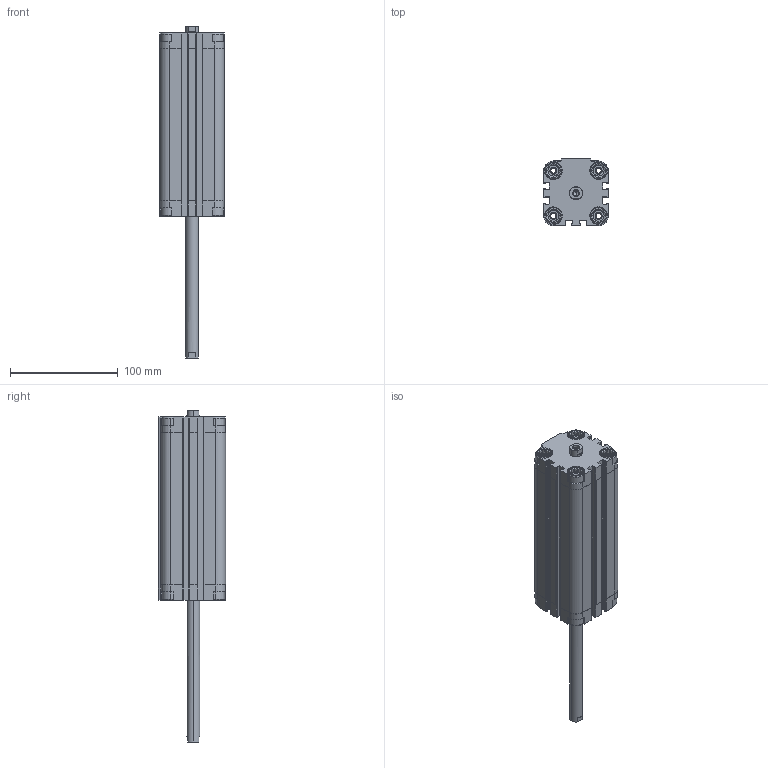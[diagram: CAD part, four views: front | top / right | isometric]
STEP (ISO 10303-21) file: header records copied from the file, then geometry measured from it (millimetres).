
FILE_DESCRIPTION (( 'STEP AP203' ), '1' );
FILE_NAME ('CDVU40-125F-P.STEP', '2020-07-24T18:34:32', ( '' ), ( '' ), 'SwSTEP 2.0', 'SolidWorks 2019', '' );
FILE_SCHEMA (( 'CONFIG_CONTROL_DESIGN' ));
Length unit declared in the file: millimetre
Products named in the file (1): CDVU40-125F-P
Bounding box: 60 x 62.5 x 308.5 mm (x, y, z)
Volume: 413908.8 mm3; surface area: 114220.1 mm2
Topology: 2 solids, 2 shells, 722 faces, 1928 edges, 1244 vertices
Faces by surface type: plane 422, cylinder 236, cone 64
Entity records: 22623 total; most frequent: CARTESIAN_POINT 4463, ORIENTED_EDGE 3840, DIRECTION 3710, EDGE_CURVE 1920, AXIS2_PLACEMENT_3D 1259, VERTEX_POINT 1244, LINE 1192, VECTOR 1192
